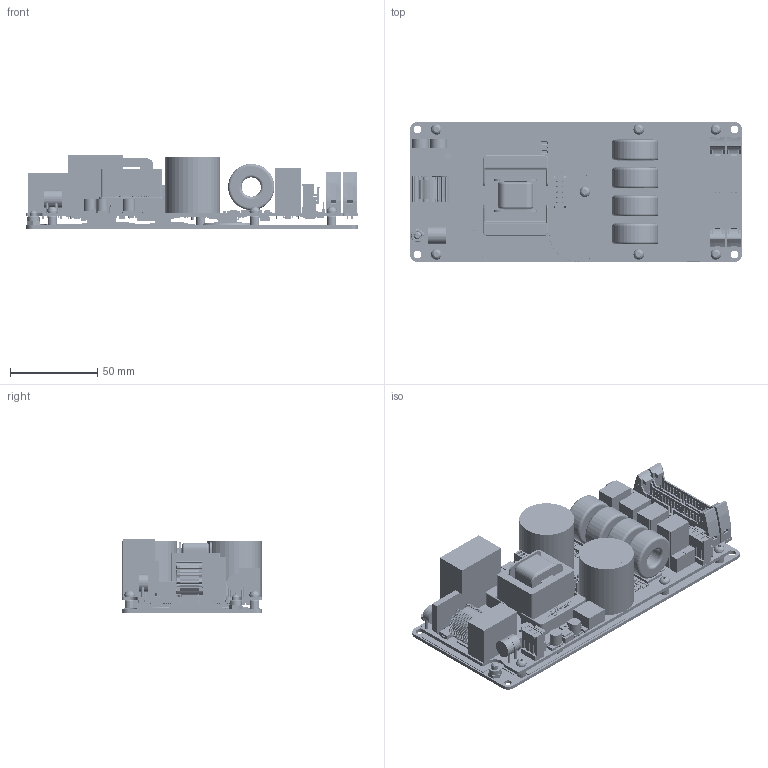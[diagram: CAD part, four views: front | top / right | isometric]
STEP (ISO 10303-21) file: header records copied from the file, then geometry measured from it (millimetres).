
FILE_DESCRIPTION(/* description */ ('Unknown'),/* implementation_level */ '2;1');
FILE_NAME(/* name */ 'Minimod 4',/* time_stamp */ '2018-05-17T16:52:44+02:00',/* author */ ('Unknown'),/* organization */ ('Unknown'),/* preprocessor_version */ 'ST-DEVELOPER v16.7',/* originating_system */ 'DEX',/* authorisation */ $);
FILE_SCHEMA (('AUTOMOTIVE_DESIGN {1 0 10303 214 3 1 1}'));
Products named in the file (11): PF000477 20180220; ME001258.00 R00; ME001258.00 R00 Base Plate; ME001380.00 Rev.00; IS000097.00.00; IS000092.00.00; IS000095.00.00; IS000096.00.00; VI000393-SCR TB M3x6 TORX SPECIALE+Ros DIN127B Acc.Zn BERARDI; Ingombro MAIN CS000891.RD.02 MINIMOD; VI000371-NUT SB M4 DIN985-UNI7474
Assembly tree (23 placements, depth 3):
  PF000477 20180220
    ME001258.00 R00
      ME001258.00 R00 Base Plate
      ME001380.00 Rev.00  x7
    IS000097.00.00
    IS000092.00.00
    IS000095.00.00
    IS000096.00.00  x2
    VI000393-SCR TB M3x6 TORX SPECIALE+Ros DIN127B Acc.Zn BERARDI  x7
    Ingombro MAIN CS000891.RD.02 MINIMOD
    VI000371-NUT SB M4 DIN985-UNI7474
Bounding box: 190.01 x 80 x 41.99 mm (x, y, z)
Volume: 253984.5 mm3; surface area: 198666.9 mm2
Topology: 1650 solids, 1655 shells, 17336 faces, 40178 edges, 26380 vertices
Faces by surface type: plane 15056, cylinder 1324, bspline 668, torus 139, sphere 120, cone 29
Full cylindrical faces by diameter (mm): 0.4 x149, 0.55 x16, 0.6 x2, 0.65 x8, 0.66 x2, 0.7 x6, 0.8 x12, 0.86 x2, 0.9 x28, 0.91 x4, 1 x126, 1.1 x4, 1.2 x20, 1.5 x18, 1.6 x12, 1.7 x4, 1.8 x15, 2 x4, 2.459 x7, 2.5 x4, 2.6 x4, 2.65 x12, 3 x7, 3.2 x7, 3.242 x1, 3.292 x1, 4 x2, 4.089 x1, 4.3 x4, 4.4 x7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
Entity records: 461571 total; most frequent: CARTESIAN_POINT 82959, ORIENTED_EDGE 68882, DIRECTION 66358, EDGE_CURVE 34441, LINE 30530, VECTOR 30530, VERTEX_POINT 23001, AXIS2_PLACEMENT_3D 17914
